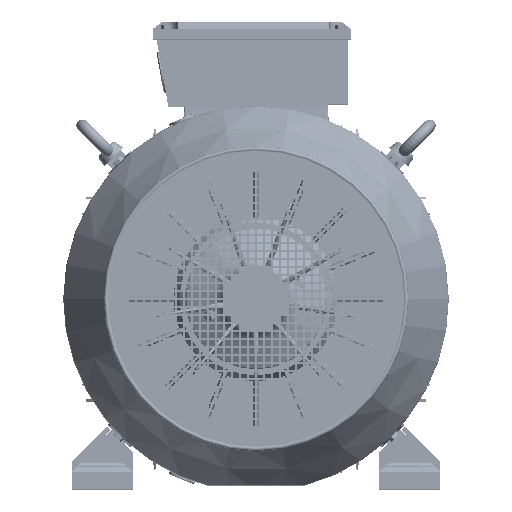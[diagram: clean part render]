
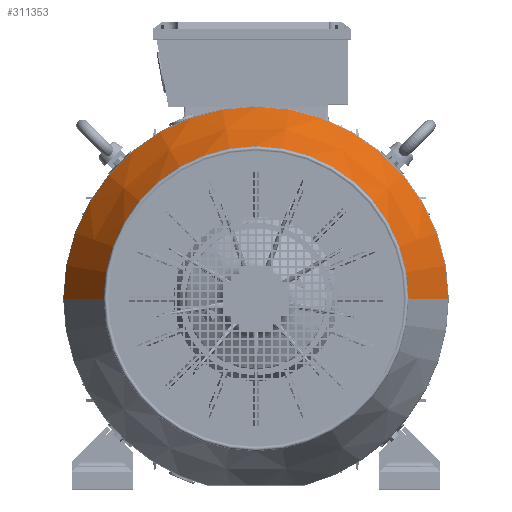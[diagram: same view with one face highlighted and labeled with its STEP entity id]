
A CAD part, top view. The second image highlights one B-rep face of the part: STEP entity #311353.
In plain terms, the highlighted conical face has half-angle 28.793 degrees and reference radius 200.371 mm.
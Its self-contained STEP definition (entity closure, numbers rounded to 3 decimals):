
#18580 = AXIS2_PLACEMENT_3D ( 'NONE', #206897, #313360, #262751 ) ;
#22444 = CARTESIAN_POINT ( 'NONE',  ( 288.47, -6.231, 316.775 ) ) ;
#23428 = ORIENTED_EDGE ( 'NONE', *, *, #102094, .T. ) ;
#23448 = EDGE_CURVE ( 'NONE', #27998, #74237, #274963, .T. ) ;
#27998 = VERTEX_POINT ( 'NONE', #136233 ) ;
#28212 = DIRECTION ( 'NONE',  ( 0., 0., -1. ) ) ;
#39990 = LINE ( 'NONE', #146486, #306252 ) ;
#54175 = VECTOR ( 'NONE', #298406, 1000. ) ;
#56074 = FACE_OUTER_BOUND ( 'NONE', #90455, .T. ) ;
#74237 = VERTEX_POINT ( 'NONE', #334731 ) ;
#82059 = LINE ( 'NONE', #300152, #54175 ) ;
#85026 = DIRECTION ( 'NONE',  ( -1., 0., 0. ) ) ;
#90455 = EDGE_LOOP ( 'NONE', ( #334990, #23428, #231396, #290923 ) ) ;
#102094 = EDGE_CURVE ( 'NONE', #74237, #103344, #82059, .T. ) ;
#103344 = VERTEX_POINT ( 'NONE', #22444 ) ;
#112043 = EDGE_CURVE ( 'NONE', #191727, #103344, #167261, .T. ) ;
#131245 = CARTESIAN_POINT ( 'NONE',  ( 36.135, -6.231, 411.325 ) ) ;
#136233 = CARTESIAN_POINT ( 'NONE',  ( -164.235, -6.231, 411.325 ) ) ;
#146486 = CARTESIAN_POINT ( 'NONE',  ( -164.235, -6.231, 411.325 ) ) ;
#152071 = AXIS2_PLACEMENT_3D ( 'NONE', #131245, #28212, #181863 ) ;
#167261 = CIRCLE ( 'NONE', #245276, 252.335 ) ;
#181863 = DIRECTION ( 'NONE',  ( -1., 0., 0. ) ) ;
#191727 = VERTEX_POINT ( 'NONE', #232442 ) ;
#206897 = CARTESIAN_POINT ( 'NONE',  ( 36.135, -6.231, 411.325 ) ) ;
#228481 = DIRECTION ( 'NONE',  ( -0.482, 0., -0.876 ) ) ;
#231396 = ORIENTED_EDGE ( 'NONE', *, *, #112043, .F. ) ;
#232442 = CARTESIAN_POINT ( 'NONE',  ( -216.199, -6.231, 316.775 ) ) ;
#242217 = CARTESIAN_POINT ( 'NONE',  ( 36.135, -6.231, 316.775 ) ) ;
#245276 = AXIS2_PLACEMENT_3D ( 'NONE', #242217, #318988, #85026 ) ;
#252255 = CONICAL_SURFACE ( 'NONE', #152071, 200.371, 0.503 ) ;
#262751 = DIRECTION ( 'NONE',  ( -1., 0., 0. ) ) ;
#274963 = CIRCLE ( 'NONE', #18580, 200.371 ) ;
#281693 = EDGE_CURVE ( 'NONE', #27998, #191727, #39990, .T. ) ;
#290923 = ORIENTED_EDGE ( 'NONE', *, *, #281693, .F. ) ;
#298406 = DIRECTION ( 'NONE',  ( 0.482, 0., -0.876 ) ) ;
#300152 = CARTESIAN_POINT ( 'NONE',  ( 236.506, -6.231, 411.325 ) ) ;
#306252 = VECTOR ( 'NONE', #228481, 1000. ) ;
#311353 = ADVANCED_FACE ( 'NONE', ( #56074 ), #252255, .T. ) ;
#313360 = DIRECTION ( 'NONE',  ( 0., 0., -1. ) ) ;
#318988 = DIRECTION ( 'NONE',  ( 0., 0., -1. ) ) ;
#334731 = CARTESIAN_POINT ( 'NONE',  ( 236.506, -6.231, 411.325 ) ) ;
#334990 = ORIENTED_EDGE ( 'NONE', *, *, #23448, .T. ) ;
